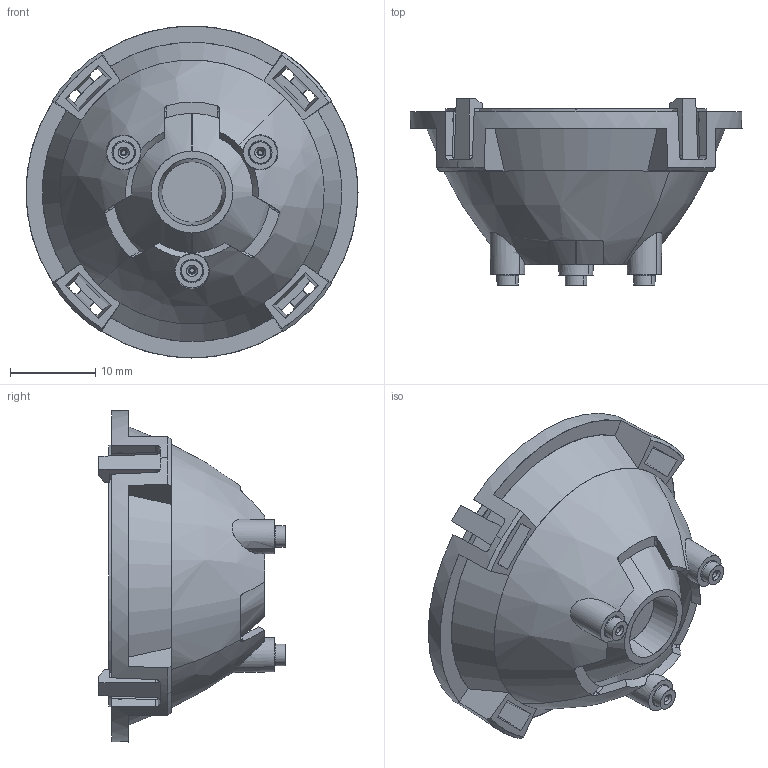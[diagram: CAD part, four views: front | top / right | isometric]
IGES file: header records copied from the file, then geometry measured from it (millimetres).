
Start section: SolidWorks IGES file using analytic representation for surfaces
Global section: file name: C:\Lenses\01-Luxspot\2400-0033_RevE\Applications\release_LLxx-2T06-P3_RevE_01-29-15\LLxx-2T06-P3_RevE.IGS; native system: SolidWorks 2014; preprocessor: SolidWorks 2014; author: dadebiyi; date: 150129.160926; units: millimetre
Bounding box: 39.05 x 21.9 x 39.05 mm (x, y, z)
Surface area: 7519 mm2 (no closed solid volume)
Topology: 0 solids, 0 shells, 227 faces, 2710 edges, 2710 vertices
Faces by surface type: bspline 148, revolution 79
